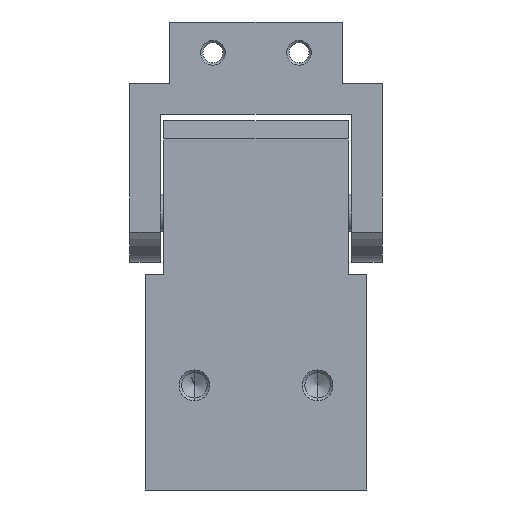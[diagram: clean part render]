
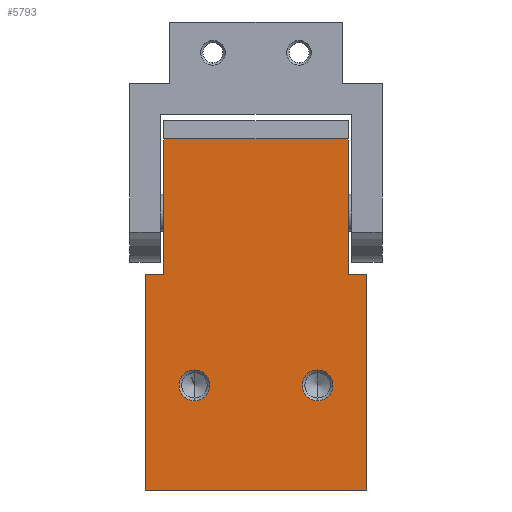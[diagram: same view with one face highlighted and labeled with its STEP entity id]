
A CAD part, left-side view. The second image highlights one B-rep face of the part: STEP entity #5793.
In plain terms, the highlighted planar face has unit normal (-1, 0, 0).
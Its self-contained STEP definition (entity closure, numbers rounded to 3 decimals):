
#36 = DIRECTION ( 'NONE',  ( 0., -1., 0. ) ) ;
#82 = ORIENTED_EDGE ( 'NONE', *, *, #5207, .T. ) ;
#95 = EDGE_CURVE ( 'NONE', #4490, #1179, #3020, .T. ) ;
#120 = VERTEX_POINT ( 'NONE', #3986 ) ;
#229 = VECTOR ( 'NONE', #586, 1000. ) ;
#428 = CARTESIAN_POINT ( 'NONE',  ( -18., 15., 35. ) ) ;
#507 = CARTESIAN_POINT ( 'NONE',  ( -18., 10., 19.5 ) ) ;
#586 = DIRECTION ( 'NONE',  ( 0., 0., 1. ) ) ;
#611 = ORIENTED_EDGE ( 'NONE', *, *, #95, .F. ) ;
#645 = PLANE ( 'NONE',  #3806 ) ;
#731 = ORIENTED_EDGE ( 'NONE', *, *, #5130, .F. ) ;
#740 = DIRECTION ( 'NONE',  ( 0., -1., 0. ) ) ;
#793 = CIRCLE ( 'NONE', #4379, 2.5 ) ;
#899 = EDGE_CURVE ( 'NONE', #4924, #3913, #5458, .T. ) ;
#1098 = EDGE_CURVE ( 'NONE', #3913, #4924, #2611, .T. ) ;
#1130 = DIRECTION ( 'NONE',  ( 1., 0., 0. ) ) ;
#1179 = VERTEX_POINT ( 'NONE', #1273 ) ;
#1249 = CARTESIAN_POINT ( 'NONE',  ( -18., 18., 35. ) ) ;
#1273 = CARTESIAN_POINT ( 'NONE',  ( -18., 15., 57. ) ) ;
#1286 = AXIS2_PLACEMENT_3D ( 'NONE', #1722, #1753, #1308 ) ;
#1308 = DIRECTION ( 'NONE',  ( 0., 0., -1. ) ) ;
#1338 = ORIENTED_EDGE ( 'NONE', *, *, #4061, .T. ) ;
#1459 = EDGE_LOOP ( 'NONE', ( #1977, #2946, #731, #2137, #3019, #611, #6252, #82 ) ) ;
#1505 = CARTESIAN_POINT ( 'NONE',  ( -18., -18., 35. ) ) ;
#1513 = CARTESIAN_POINT ( 'NONE',  ( -18., -15., 35. ) ) ;
#1521 = LINE ( 'NONE', #4445, #5795 ) ;
#1604 = EDGE_CURVE ( 'NONE', #2237, #2001, #3067, .T. ) ;
#1616 = ORIENTED_EDGE ( 'NONE', *, *, #899, .T. ) ;
#1642 = CARTESIAN_POINT ( 'NONE',  ( -18., 18., 35. ) ) ;
#1648 = CARTESIAN_POINT ( 'NONE',  ( -18., 15., 35. ) ) ;
#1722 = CARTESIAN_POINT ( 'NONE',  ( -18., -10., 17. ) ) ;
#1725 = LINE ( 'NONE', #1249, #6182 ) ;
#1753 = DIRECTION ( 'NONE',  ( 1., 0., 0. ) ) ;
#1875 = CARTESIAN_POINT ( 'NONE',  ( -18., 18., 35. ) ) ;
#1921 = EDGE_LOOP ( 'NONE', ( #1338, #2883 ) ) ;
#1955 = DIRECTION ( 'NONE',  ( 0., 0., -1. ) ) ;
#1977 = ORIENTED_EDGE ( 'NONE', *, *, #1604, .T. ) ;
#1988 = CARTESIAN_POINT ( 'NONE',  ( -18., 10., 17. ) ) ;
#2001 = VERTEX_POINT ( 'NONE', #4397 ) ;
#2008 = CARTESIAN_POINT ( 'NONE',  ( -18., -18., 35. ) ) ;
#2115 = VECTOR ( 'NONE', #2160, 1000. ) ;
#2131 = CARTESIAN_POINT ( 'NONE',  ( -18., -15., 57. ) ) ;
#2137 = ORIENTED_EDGE ( 'NONE', *, *, #4728, .T. ) ;
#2160 = DIRECTION ( 'NONE',  ( 0., 0., 1. ) ) ;
#2176 = LINE ( 'NONE', #2622, #4228 ) ;
#2237 = VERTEX_POINT ( 'NONE', #6156 ) ;
#2611 = CIRCLE ( 'NONE', #1286, 2.5 ) ;
#2622 = CARTESIAN_POINT ( 'NONE',  ( -18., 18., 35. ) ) ;
#2883 = ORIENTED_EDGE ( 'NONE', *, *, #5128, .T. ) ;
#2941 = DIRECTION ( 'NONE',  ( 1., 0., 0. ) ) ;
#2946 = ORIENTED_EDGE ( 'NONE', *, *, #3348, .F. ) ;
#2990 = DIRECTION ( 'NONE',  ( 0., -1., 0. ) ) ;
#3019 = ORIENTED_EDGE ( 'NONE', *, *, #4268, .F. ) ;
#3020 = LINE ( 'NONE', #1648, #2115 ) ;
#3067 = LINE ( 'NONE', #5461, #3356 ) ;
#3181 = VECTOR ( 'NONE', #4795, 1000. ) ;
#3195 = DIRECTION ( 'NONE',  ( 0., 0., -1. ) ) ;
#3300 = CARTESIAN_POINT ( 'NONE',  ( -18., 18., 35. ) ) ;
#3312 = VERTEX_POINT ( 'NONE', #507 ) ;
#3348 = EDGE_CURVE ( 'NONE', #5061, #2001, #4449, .T. ) ;
#3356 = VECTOR ( 'NONE', #36, 1000. ) ;
#3559 = FACE_BOUND ( 'NONE', #1921, .T. ) ;
#3678 = DIRECTION ( 'NONE',  ( 1., 0., 0. ) ) ;
#3806 = AXIS2_PLACEMENT_3D ( 'NONE', #1642, #1130, #5434 ) ;
#3817 = CARTESIAN_POINT ( 'NONE',  ( -18., -10., 19.5 ) ) ;
#3824 = CARTESIAN_POINT ( 'NONE',  ( -18., -10., 14.5 ) ) ;
#3913 = VERTEX_POINT ( 'NONE', #3824 ) ;
#3986 = CARTESIAN_POINT ( 'NONE',  ( -18., 10., 14.5 ) ) ;
#4061 = EDGE_CURVE ( 'NONE', #3312, #120, #793, .T. ) ;
#4085 = VERTEX_POINT ( 'NONE', #6060 ) ;
#4210 = DIRECTION ( 'NONE',  ( 1., 0., 0. ) ) ;
#4228 = VECTOR ( 'NONE', #740, 1000. ) ;
#4268 = EDGE_CURVE ( 'NONE', #1179, #6143, #1521, .T. ) ;
#4346 = DIRECTION ( 'NONE',  ( 0., 0., -1. ) ) ;
#4379 = AXIS2_PLACEMENT_3D ( 'NONE', #4695, #4210, #4346 ) ;
#4397 = CARTESIAN_POINT ( 'NONE',  ( -18., -18., 0. ) ) ;
#4445 = CARTESIAN_POINT ( 'NONE',  ( -18., 15., 57. ) ) ;
#4449 = LINE ( 'NONE', #2008, #4559 ) ;
#4467 = FACE_OUTER_BOUND ( 'NONE', #1459, .T. ) ;
#4490 = VERTEX_POINT ( 'NONE', #428 ) ;
#4531 = CIRCLE ( 'NONE', #5459, 2.5 ) ;
#4559 = VECTOR ( 'NONE', #6357, 1000. ) ;
#4695 = CARTESIAN_POINT ( 'NONE',  ( -18., 10., 17. ) ) ;
#4728 = EDGE_CURVE ( 'NONE', #4085, #6143, #5918, .T. ) ;
#4795 = DIRECTION ( 'NONE',  ( 0., -1., 0. ) ) ;
#4924 = VERTEX_POINT ( 'NONE', #3817 ) ;
#4960 = VERTEX_POINT ( 'NONE', #3300 ) ;
#5012 = FACE_BOUND ( 'NONE', #5856, .T. ) ;
#5061 = VERTEX_POINT ( 'NONE', #1505 ) ;
#5128 = EDGE_CURVE ( 'NONE', #120, #3312, #4531, .T. ) ;
#5130 = EDGE_CURVE ( 'NONE', #4085, #5061, #2176, .T. ) ;
#5164 = DIRECTION ( 'NONE',  ( 0., 0., -1. ) ) ;
#5207 = EDGE_CURVE ( 'NONE', #4960, #2237, #1725, .T. ) ;
#5328 = ORIENTED_EDGE ( 'NONE', *, *, #1098, .T. ) ;
#5346 = LINE ( 'NONE', #1875, #3181 ) ;
#5434 = DIRECTION ( 'NONE',  ( 0., 1., 0. ) ) ;
#5458 = CIRCLE ( 'NONE', #6293, 2.5 ) ;
#5459 = AXIS2_PLACEMENT_3D ( 'NONE', #1988, #3678, #5164 ) ;
#5461 = CARTESIAN_POINT ( 'NONE',  ( -18., 18., 0. ) ) ;
#5718 = EDGE_CURVE ( 'NONE', #4960, #4490, #5346, .T. ) ;
#5793 = ADVANCED_FACE ( 'NONE', ( #4467, #5012, #3559 ), #645, .F. ) ;
#5795 = VECTOR ( 'NONE', #2990, 1000. ) ;
#5856 = EDGE_LOOP ( 'NONE', ( #1616, #5328 ) ) ;
#5918 = LINE ( 'NONE', #1513, #229 ) ;
#6060 = CARTESIAN_POINT ( 'NONE',  ( -18., -15., 35. ) ) ;
#6143 = VERTEX_POINT ( 'NONE', #2131 ) ;
#6156 = CARTESIAN_POINT ( 'NONE',  ( -18., 18., 0. ) ) ;
#6182 = VECTOR ( 'NONE', #3195, 1000. ) ;
#6252 = ORIENTED_EDGE ( 'NONE', *, *, #5718, .F. ) ;
#6268 = CARTESIAN_POINT ( 'NONE',  ( -18., -10., 17. ) ) ;
#6293 = AXIS2_PLACEMENT_3D ( 'NONE', #6268, #2941, #1955 ) ;
#6357 = DIRECTION ( 'NONE',  ( 0., 0., -1. ) ) ;
